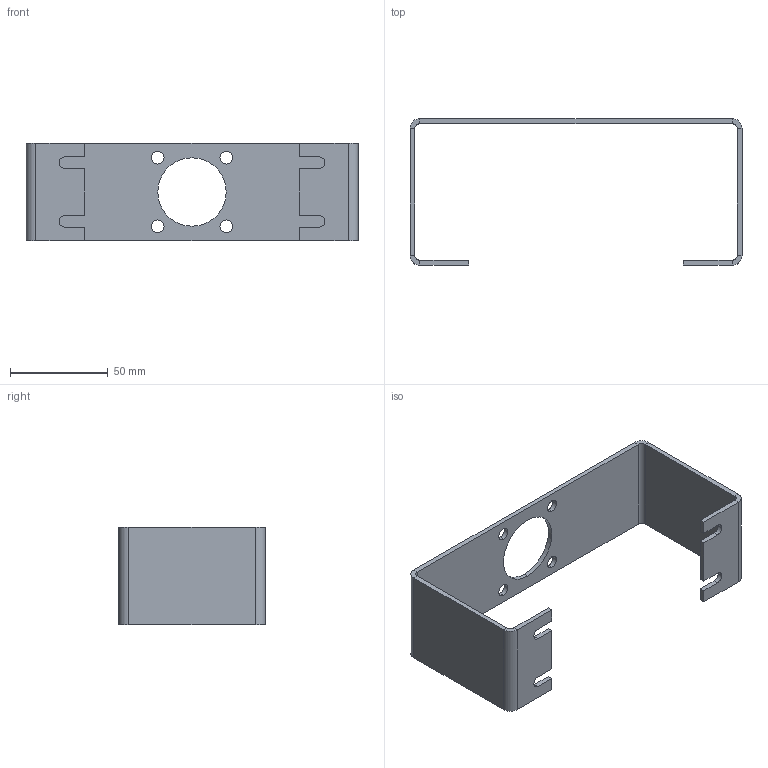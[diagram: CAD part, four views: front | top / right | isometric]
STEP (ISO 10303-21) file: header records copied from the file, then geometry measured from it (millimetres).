
FILE_DESCRIPTION (( 'STEP AP214' ), '1' );
FILE_NAME ('GR4.STEP', '2016-10-04T07:20:16', ( 'Bluecom' ), ( '' ), 'SwSTEP 2.0', 'SolidWorks 2015', '' );
FILE_SCHEMA (( 'AUTOMOTIVE_DESIGN' ));
Length unit declared in the file: millimetre
Products named in the file (1): GR4
Bounding box: 170 x 75 x 50 mm (x, y, z)
Volume: 41966.8 mm3; surface area: 36354.6 mm2
Topology: 1 solids, 1 shells, 66 faces, 160 edges, 96 vertices
Faces by surface type: plane 42, cylinder 24
Entity records: 1950 total; most frequent: DIRECTION 342, CARTESIAN_POINT 323, ORIENTED_EDGE 320, EDGE_CURVE 160, AXIS2_PLACEMENT_3D 115, VECTOR 112, LINE 112, VERTEX_POINT 96
